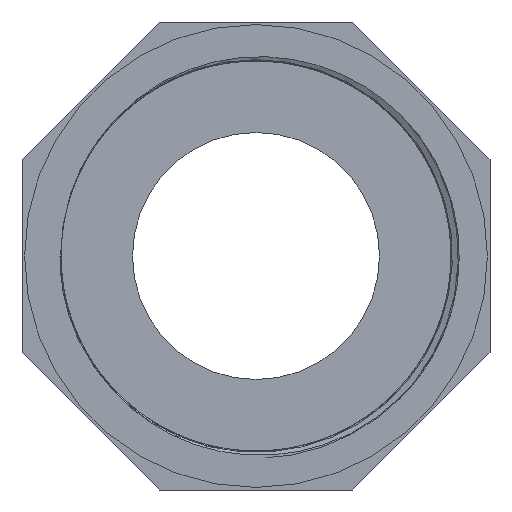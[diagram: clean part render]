
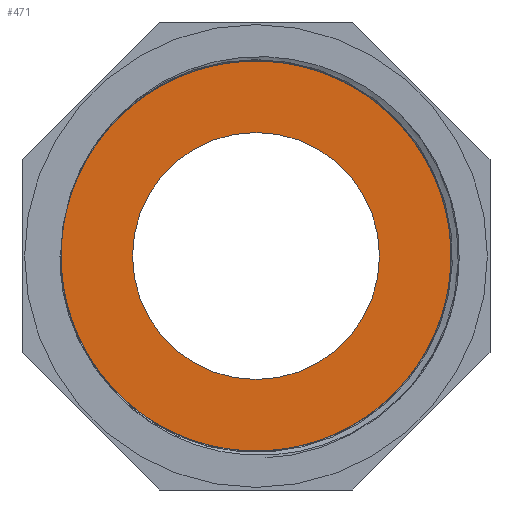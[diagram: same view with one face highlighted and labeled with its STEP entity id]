
A CAD part, front view. The second image highlights one B-rep face of the part: STEP entity #471.
In plain terms, the highlighted planar face has unit normal (0, -1, 0).
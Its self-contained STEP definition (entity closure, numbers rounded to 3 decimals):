
#18=FACE_BOUND('',#159,.T.);
#39=PLANE('',#502);
#126=FACE_OUTER_BOUND('',#158,.T.);
#158=EDGE_LOOP('',(#411));
#159=EDGE_LOOP('',(#412));
#177=CIRCLE('',#501,23.75);
#178=CIRCLE('',#503,37.592);
#242=VERTEX_POINT('',#10387);
#243=VERTEX_POINT('',#10390);
#306=EDGE_CURVE('',#242,#242,#177,.T.);
#307=EDGE_CURVE('',#243,#243,#178,.T.);
#411=ORIENTED_EDGE('',*,*,#307,.F.);
#412=ORIENTED_EDGE('',*,*,#306,.T.);
#471=ADVANCED_FACE('',(#126,#18),#39,.T.);
#501=AXIS2_PLACEMENT_3D('',#10388,#587,#588);
#502=AXIS2_PLACEMENT_3D('',#10389,#589,#590);
#503=AXIS2_PLACEMENT_3D('',#10391,#591,#592);
#587=DIRECTION('center_axis',(0.,1.,0.));
#588=DIRECTION('ref_axis',(1.,0.,0.));
#589=DIRECTION('center_axis',(0.,-1.,0.));
#590=DIRECTION('ref_axis',(0.,0.,-1.));
#591=DIRECTION('center_axis',(0.,1.,0.));
#592=DIRECTION('ref_axis',(1.,0.,0.));
#10387=CARTESIAN_POINT('',(-23.75,35.3,0.));
#10388=CARTESIAN_POINT('Origin',(0.,35.3,0.));
#10389=CARTESIAN_POINT('Origin',(-37.592,35.3,0.));
#10390=CARTESIAN_POINT('',(-37.592,35.3,0.));
#10391=CARTESIAN_POINT('Origin',(0.,35.3,0.));
